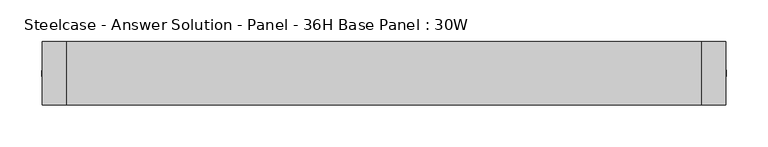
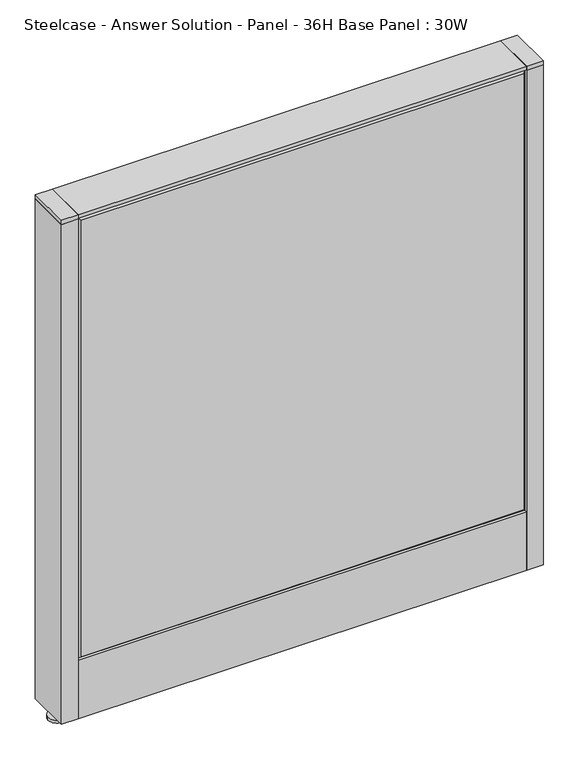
"""IFC4 building model written with IfcOpenShell, lengths in millimetres: furniture geometry, Steelcase - Answer Solution - Panel - 36H Base Panel : 30W."""

from ifc_helpers import new_model, si_unit, point, frame, frame_2d, origin, place, context, project, spatial, polyline, circle_curve, trimmed, segment, composite_curve, outline, extrude, faceted_brep, source, transform, mapped, element, save


def steelcase_answer_solution_panel_36h_base_panel_30w_bb842b7a(model_context):
    return source(origin(), model_context, "Body", "SolidModel", [
        extrude(outline(composite_curve([segment(trimmed(circle_curve(frame_2d((395.224, 0.0320214)), 5.08), [point((400.304, 0.0320214))], [point((390.144, 0.0320214))], False, "CARTESIAN"), True, "CONTINUOUS"), segment(trimmed(circle_curve(frame_2d((395.224, 0.0320214)), 5.08), [point((390.144, 0.0320214))], [point((400.304, 0.0320214))], False, "CARTESIAN"), True, "CONTINUOUS")], self_intersect=False)), frame((0.0, 0.0, 5.0799671), z_axis=(0.0, 0.0, 1.0), x_axis=(1.0, 0.0, 0.0)), (0.0, 0.0, 1.0), 10.414),
        extrude(outline(composite_curve([segment(trimmed(circle_curve(frame_2d((395.224, 0.0320214)), 15.24), [point((410.464, 0.0320214))], [point((379.984, 0.0320214))], False, "CARTESIAN"), True, "CONTINUOUS"), segment(trimmed(circle_curve(frame_2d((395.224, 0.0320214)), 15.24), [point((379.984, 0.0320214))], [point((410.464, 0.0320214))], False, "CARTESIAN"), True, "CONTINUOUS")], self_intersect=False)), frame((0.0, 0.0, -3.29e-05), z_axis=(0.0, 0.0, 1.0), x_axis=(1.0, 0.0, 0.0)), (0.0, 0.0, 1.0), 5.08),
        extrude(outline(polyline([(409.575, 38.1320408), (409.575, -38.0679592), (381.0, -38.0679592), (381.0, 38.1320408), (409.575, 38.1320408)])), frame((0.0, 0.0, 913.4348), z_axis=(0.0, 0.0, 1.0), x_axis=(1.0, 0.0, 0.0)), (0.0, 0.0, 1.0), 7.3151671),
        extrude(outline(polyline([(409.575, 38.1320408), (409.575, -38.0679592), (381.0, -38.0679592), (381.0, 38.1320408), (409.575, 38.1320408)])), frame((0.0, 0.0, 15.4939671), z_axis=(0.0, 0.0, 1.0), x_axis=(1.0, 0.0, 0.0)), (0.0, 0.0, 1.0), 897.9408329),
        extrude(outline(composite_curve([segment(trimmed(circle_curve(frame_2d((-395.224, -0.0320214)), 5.08), [point((-400.304, -0.0320214))], [point((-390.144, -0.0320214))], False, "CARTESIAN"), True, "CONTINUOUS"), segment(trimmed(circle_curve(frame_2d((-395.224, -0.0320214)), 5.08), [point((-390.144, -0.0320214))], [point((-400.304, -0.0320214))], False, "CARTESIAN"), True, "CONTINUOUS")], self_intersect=False)), frame((0.0, 0.0, 5.0799671), z_axis=(0.0, 0.0, 1.0), x_axis=(1.0, 0.0, 0.0)), (0.0, 0.0, 1.0), 10.414),
        extrude(outline(composite_curve([segment(trimmed(circle_curve(frame_2d((-395.224, -0.0320214)), 15.24), [point((-410.464, -0.0320214))], [point((-379.984, -0.0320214))], False, "CARTESIAN"), True, "CONTINUOUS"), segment(trimmed(circle_curve(frame_2d((-395.224, -0.0320214)), 15.24), [point((-379.984, -0.0320214))], [point((-410.464, -0.0320214))], False, "CARTESIAN"), True, "CONTINUOUS")], self_intersect=False)), frame((0.0, 0.0, -3.29e-05), z_axis=(0.0, 0.0, 1.0), x_axis=(1.0, 0.0, 0.0)), (0.0, 0.0, 1.0), 5.08),
        extrude(outline(polyline([(-409.575, -38.1320408), (-409.575, 38.0679592), (-381.0, 38.0679592), (-381.0, -38.1320408), (-409.575, -38.1320408)])), frame((0.0, 0.0, 913.4348), z_axis=(0.0, 0.0, 1.0), x_axis=(1.0, 0.0, 0.0)), (0.0, 0.0, 1.0), 7.3151671),
        extrude(outline(polyline([(-409.575, -38.1320408), (-409.575, 38.0679592), (-381.0, 38.0679592), (-381.0, -38.1320408), (-409.575, -38.1320408)])), frame((0.0, 0.0, 15.4939671), z_axis=(0.0, 0.0, 1.0), x_axis=(1.0, 0.0, 0.0)), (0.0, 0.0, 1.0), 897.9408329),
        faceted_brep([(376.174, 38.1635011, 909.574), (376.174, 38.1635011, 614.426), (-376.174, 38.1635011, 614.426), (-376.174, 38.1635011, 909.574), (381.0, 33.3375011, 914.4), (-381.0, 33.3375011, 914.4), (-381.0, 33.3375011, 609.6), (381.0, 33.3375011, 609.6)], [[[0, 1, 2, 3]], [[4, 5, 6, 7]], [[4, 0, 3, 5]], [[5, 3, 2, 6]], [[6, 2, 1, 7]], [[7, 1, 0, 4]]]),
        faceted_brep([(376.174, 38.1635011, 604.774), (376.174, 38.1635011, 125.476), (-376.174, 38.1635011, 125.476), (-376.174, 38.1635011, 604.774), (381.0, 33.3375011, 609.6), (-381.0, 33.3375011, 609.6), (-381.0, 33.3375011, 120.65), (381.0, 33.3375011, 120.65)], [[[0, 1, 2, 3]], [[4, 5, 6, 7]], [[4, 0, 3, 5]], [[5, 3, 2, 6]], [[6, 2, 1, 7]], [[7, 1, 0, 4]]]),
        faceted_brep([(376.174, -38.1635011, 909.574), (-376.174, -38.1635011, 909.574), (-376.174, -38.1635011, 125.476), (376.174, -38.1635011, 125.476), (381.0, -33.3375011, 914.4), (381.0, -33.3375011, 120.65), (-381.0, -33.3375011, 120.65), (-381.0, -33.3375011, 914.4)], [[[0, 1, 2, 3]], [[4, 5, 6, 7]], [[4, 7, 1, 0]], [[7, 6, 2, 1]], [[6, 5, 3, 2]], [[5, 4, 0, 3]]]),
        extrude(outline(polyline([(381.0, 38.1000194), (381.0, -38.1000194), (-381.0, -38.1000194), (-381.0, 38.1000194), (381.0, 38.1000194)])), frame((0.0, 0.0, 914.4), z_axis=(0.0, 0.0, 1.0), x_axis=(1.0, 0.0, 0.0)), (0.0, 0.0, 1.0), 6.35),
        extrude(outline(polyline([(37.3075215, 119.8575157), (25.4000011, 119.8575157), (25.4000011, 120.65), (38.1000194, 120.65), (38.1000194, 15.494), (37.3075215, 15.494), (37.3075215, 119.8575157)])), frame((-381.0, 0.0, 0.0), z_axis=(1.0, 0.0, 0.0), x_axis=(0.0, 1.0, 0.0)), (0.0, 0.0, 1.0), 762.0),
        extrude(outline(polyline([(-37.3075215, 119.8575157), (-37.3075215, 15.494), (-38.1000194, 15.494), (-38.1000194, 120.65), (-25.4000011, 120.65), (-25.4000011, 119.8575157), (-37.3075215, 119.8575157)])), frame((-381.0, 0.0, 0.0), z_axis=(1.0, 0.0, 0.0), x_axis=(0.0, 1.0, 0.0)), (0.0, 0.0, 1.0), 762.0),
    ])


if __name__ == "__main__":
    model = new_model("IFC4")
    model_context = context("Model", 3, world=origin())
    ifc_project = project(units=[si_unit("LENGTHUNIT", "METRE", prefix="MILLI")], contexts=[model_context])
    site = spatial("IfcSite", under=ifc_project)
    building = spatial("IfcBuilding", under=site)
    placement = place(None, origin())
    steelcase_answer_solution_panel_36h_base_panel_30w_shape = steelcase_answer_solution_panel_36h_base_panel_30w_bb842b7a(model_context)
    element("IfcFurniture", 1, ObjectType="Steelcase - Answer Solution - Panel - 36H Base Panel : 30W", at=placement, inside=building, context=model_context, shape_type="MappedRepresentation", body=[
        mapped(steelcase_answer_solution_panel_36h_base_panel_30w_shape, transform((0.0, 0.0, 0.0), x_axis=(1.0, 0.0, 0.0), y_axis=(0.0, 1.0, 0.0), z_axis=(0.0, 0.0, 1.0))),
    ])
    save(model, "model.ifc")
